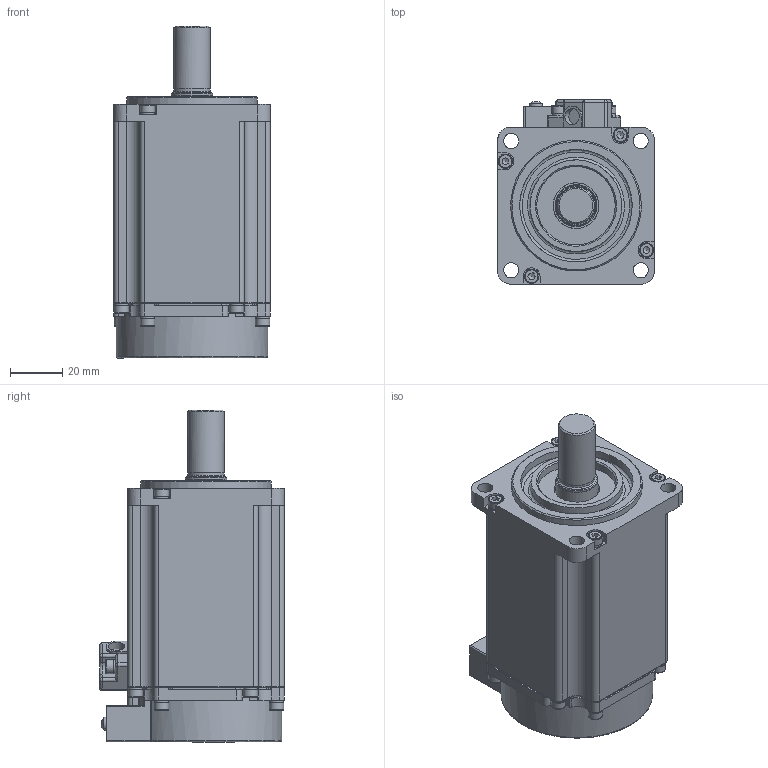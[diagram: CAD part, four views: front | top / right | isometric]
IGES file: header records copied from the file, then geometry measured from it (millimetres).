
Global section: file name: L040; native system: Autodesk Inventor 2014; preprocessor: unknown; author: Mejust; date: 20160718.104911; units: millimetre
Bounding box: 60 x 70.7 x 127 mm (x, y, z)
Volume: 85378.5 mm3; surface area: 62214.9 mm2
Topology: 24 solids, 31 shells, 736 faces, 1929 edges, 1285 vertices
Faces by surface type: bspline 736
